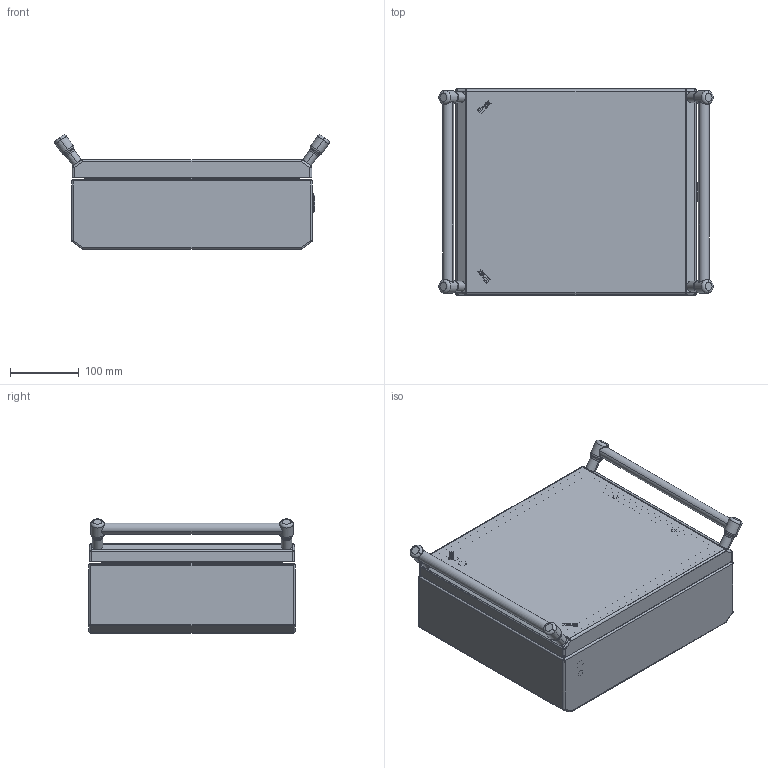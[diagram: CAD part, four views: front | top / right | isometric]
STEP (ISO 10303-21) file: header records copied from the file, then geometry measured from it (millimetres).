
FILE_DESCRIPTION (( 'STEP AP203' ), '1' );
FILE_NAME ('BK33AM-COM.step', '2023-09-19T13:19:41', ( '' ), ( '' ), 'SwSTEP 2.0', 'SolidWorks 2021', '' );
FILE_SCHEMA (( 'CONFIG_CONTROL_DESIGN' ));
Length unit declared in the file: millimetre
Products named in the file (20): OLD-ADMT_ADMT; Staffa Serraggio Box BK_SSBKH300; Scarpetta Box serie BK; PRM615TL316; 1000-156-01^1000-u183_ SG215S_Assiemi Box serie BK33-BK75M; 1000-u183^ SG215S_Assiemi Box serie BK33-BK75M; 1000-277-01PI^1000-u183_ SG215S_Assiemi Box serie BK33-BK75M; Tubo maniglia Box BK H300-H550_TMBK300; Parte7^ SG215S_Assiemi Box serie BK33-BK75M; 1000-24^1000-u183_ SG215S_Assiemi Box serie BK33-BK75M; BK33AM-COM; LOGO_ILINOX;  1000-U134^ SG215S_Assiemi Box serie BK33-BK75M; Guarnizione Schiumata 13x6.5_GBK33-GBK33M; Fasciame FABK33- FABK75M_FABK33; 1000-02-RA_1^ 1000-U134_ SG215S_Assiemi Box serie BK33-BK75M;  SG215S^Assiemi Box serie BK33-BK75M_Chiusura_ALTO; 1000-03-PG^1000-u183_ SG215S_Assiemi Box serie BK33-BK75M; Porte Box BK33-BK75M_POBK33M; 1000-101-GPF_GPD_1^ 1000-U134_ SG215S_Assiemi Box serie BK33-BK75M
Assembly tree (25 placements, depth 4):
  BK33AM-COM
    Fasciame FABK33- FABK75M_FABK33
    Porte Box BK33-BK75M_POBK33M
    Guarnizione Schiumata 13x6.5_GBK33-GBK33M
    Staffa Serraggio Box BK_SSBKH300
    Scarpetta Box serie BK
    Tubo maniglia Box BK H300-H550_TMBK300  x2
     SG215S^Assiemi Box serie BK33-BK75M_Chiusura_ALTO
       1000-U134^ SG215S_Assiemi Box serie BK33-BK75M
        1000-101-GPF_GPD_1^ 1000-U134_ SG215S_Assiemi Box serie BK33-BK75M
        1000-02-RA_1^ 1000-U134_ SG215S_Assiemi Box serie BK33-BK75M
      1000-u183^ SG215S_Assiemi Box serie BK33-BK75M
        1000-156-01^1000-u183_ SG215S_Assiemi Box serie BK33-BK75M
        1000-03-PG^1000-u183_ SG215S_Assiemi Box serie BK33-BK75M
        1000-24^1000-u183_ SG215S_Assiemi Box serie BK33-BK75M
        1000-277-01PI^1000-u183_ SG215S_Assiemi Box serie BK33-BK75M
      Parte7^ SG215S_Assiemi Box serie BK33-BK75M
    OLD-ADMT_ADMT  x2
    LOGO_ILINOX  x2
    PRM615TL316  x4
Bounding box: 399.31 x 300 x 166.07 mm (x, y, z)
Volume: 853693.5 mm3; surface area: 920123.6 mm2
Topology: 42 solids, 49 shells, 1096 faces, 2535 edges, 1532 vertices
Faces by surface type: plane 517, cylinder 382, cone 72, sphere 48, torus 48, bspline 29
Entity records: 29303 total; most frequent: CARTESIAN_POINT 7295, DIRECTION 4329, ORIENTED_EDGE 3947, EDGE_CURVE 1977, AXIS2_PLACEMENT_3D 1636, VERTEX_POINT 1214, LINE 1057, VECTOR 1057
